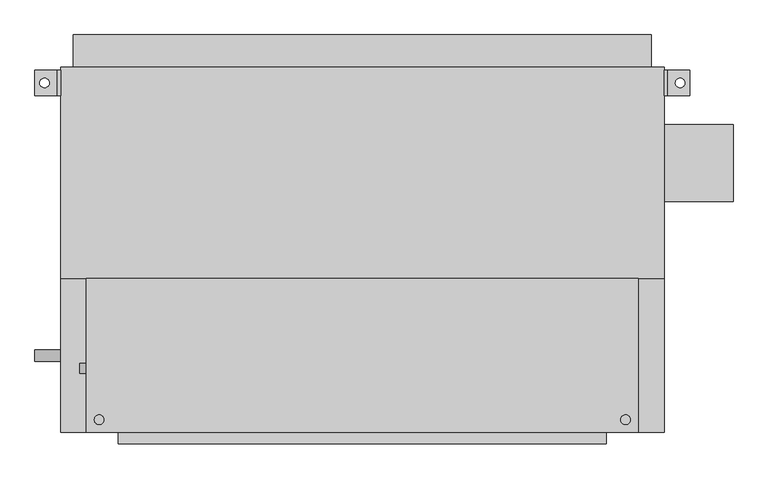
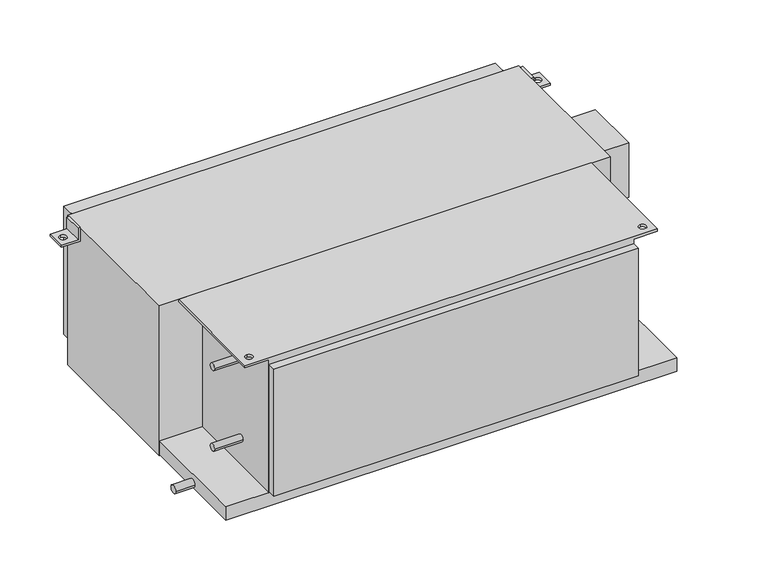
"""IFC4 building model written with IfcOpenShell, lengths in millimetres: proxy geometry, Concealed_High_Capacity_Horizontal_Fan_Coil_Unit_With_Plenum_-_42DCA_-_CARRIER_-_2-Pipe_Cool-EHeat_LH_2022 : Size 16 - 277v/60Hz/1Ph - 6 Row 12.0kW."""

from ifc_helpers import new_model, si_unit, point, frame, frame_2d, origin, place, context, project, spatial, polyline, circle_curve, trimmed, segment, composite_curve, outline, extrude, source, transform, mapped, element, save
from ifc_brep_helpers import plane_surface, revolved_surface, advanced_brep


def mechanical_equipment_f685141f(model_context):
    return source(origin(), model_context, "Body", "SolidModel", [
        advanced_brep(
        [(-444.5, 327.025, -38.1), (-495.3, 327.025, -38.1), (-495.3, 327.025, -31.75), (-450.85, 327.025, -31.75), (-450.85, 327.025, 0.0), (-444.5, 327.025, 0.0), (-444.5, 276.225, -38.1), (-444.5, 276.225, 0.0), (-450.85, 276.225, 0.0), (-450.85, 276.225, -31.75), (-495.3, 276.225, -31.75), (-495.3, 276.225, -38.1), (-476.25, 292.1, -38.1), (-476.25, 311.15, -38.1), (-476.25, 311.15, -31.75), (-476.25, 292.1, -31.75)],
        [
            (0, 1),
            (1, 2),
            (2, 3),
            (3, 4),
            (4, 5),
            (5, 0),
            (6, 7),
            (7, 8),
            (8, 9),
            (9, 10),
            (10, 11),
            (11, 6),
            (0, 6),
            (11, 1),
            (12, 13, circle_curve(frame((-476.25, 301.625, -38.1), z_axis=(0.0, 0.0, 1.0), x_axis=(0.0, -1.0, 0.0)), 9.525)),
            (13, 12, circle_curve(frame((-476.25, 301.625, -38.1), z_axis=(0.0, 0.0, 1.0), x_axis=(0.0, -1.0, 0.0)), 9.525)),
            (10, 2),
            (9, 3),
            (14, 15, circle_curve(frame((-476.25, 301.625, -31.75), z_axis=(0.0, 0.0, -1.0), x_axis=(0.0, -1.0, 0.0)), 9.525)),
            (15, 14, circle_curve(frame((-476.25, 301.625, -31.75), z_axis=(0.0, 0.0, -1.0), x_axis=(0.0, -1.0, 0.0)), 9.525)),
            (8, 4),
            (7, 5),
            (14, 13),
            (12, 15),
        ],
        [
            plane_surface(frame((-444.5, 327.025, -38.1), z_axis=(0.0, 1.0, 0.0), x_axis=(-1.0, 0.0, 0.0))),
            plane_surface(frame((-444.5, 276.225, -38.1), z_axis=(0.0, -1.0, 0.0), x_axis=(1.0, 0.0, 0.0))),
            plane_surface(frame((-444.5, 327.025, -38.1), z_axis=(0.0, 0.0, -1.0), x_axis=(0.0, -1.0, 0.0))),
            plane_surface(frame((-495.3, 327.025, -38.1), z_axis=(-1.0, 0.0, 0.0), x_axis=(0.0, -1.0, 0.0))),
            plane_surface(frame((-495.3, 327.025, -31.75), z_axis=(0.0, 0.0, 1.0), x_axis=(0.0, -1.0, 0.0))),
            plane_surface(frame((-450.85, 327.025, -31.75), z_axis=(-1.0, 0.0, 0.0), x_axis=(0.0, -1.0, 0.0))),
            plane_surface(frame((-450.85, 327.025, 0.0), z_axis=(0.0, 0.0, 1.0), x_axis=(0.0, -1.0, 0.0))),
            plane_surface(frame((-444.5, 327.025, 0.0), z_axis=(1.0, 0.0, 0.0), x_axis=(0.0, -1.0, 0.0))),
            revolved_surface(polyline([(-476.25, 292.1, -38.1), (-476.25, 292.1, -31.75)]), (-476.25, 301.625, -31.75), (0.0, 0.0, -1.0)),
        ],
        [
            (0, [[1, 2, 3, 4, 5, 6]]),
            (1, [[7, 8, 9, 10, 11, 12]]),
            (2, [[-1, 13, -12, 14], [15, 16]]),
            (3, [[-2, -14, -11, 17]]),
            (4, [[-3, -17, -10, 18], [19, 20]]),
            (5, [[-4, -18, -9, 21]]),
            (6, [[-5, -21, -8, 22]]),
            (7, [[-6, -22, -7, -13]]),
            (8, [[23, -15, 24, -19]]),
            (8, [[-23, -20, -24, -16]]),
        ],
    ),
        advanced_brep(
        [(749.3, 327.025, -38.1), (749.3, 327.025, 0.0), (755.65, 327.025, 0.0), (755.65, 327.025, -31.75), (800.1, 327.025, -31.75), (800.1, 327.025, -38.1), (749.3, 276.225, -38.1), (800.1, 276.225, -38.1), (800.1, 276.225, -31.75), (755.65, 276.225, -31.75), (755.65, 276.225, 0.0), (749.3, 276.225, 0.0), (781.05, 311.15, -31.75), (781.05, 292.1, -31.75), (781.05, 292.1, -38.1), (781.05, 311.15, -38.1)],
        [
            (0, 1),
            (1, 2),
            (2, 3),
            (3, 4),
            (4, 5),
            (5, 0),
            (6, 7),
            (7, 8),
            (8, 9),
            (9, 10),
            (10, 11),
            (11, 6),
            (0, 6),
            (11, 1),
            (10, 2),
            (9, 3),
            (8, 4),
            (12, 13, circle_curve(frame((781.05, 301.625, -31.75), z_axis=(0.0, 0.0, -1.0), x_axis=(0.0, -1.0, 0.0)), 9.525)),
            (13, 12, circle_curve(frame((781.05, 301.625, -31.75), z_axis=(0.0, 0.0, -1.0), x_axis=(0.0, -1.0, 0.0)), 9.525)),
            (7, 5),
            (14, 15, circle_curve(frame((781.05, 301.625, -38.1), z_axis=(0.0, 0.0, 1.0), x_axis=(0.0, -1.0, 0.0)), 9.525)),
            (15, 14, circle_curve(frame((781.05, 301.625, -38.1), z_axis=(0.0, 0.0, 1.0), x_axis=(0.0, -1.0, 0.0)), 9.525)),
            (12, 15),
            (14, 13),
        ],
        [
            plane_surface(frame((-444.5, 327.025, -38.1), z_axis=(0.0, 1.0, 0.0), x_axis=(-1.0, 0.0, 0.0))),
            plane_surface(frame((-444.5, 276.225, -38.1), z_axis=(0.0, -1.0, 0.0), x_axis=(1.0, 0.0, 0.0))),
            plane_surface(frame((749.3, 327.025, -38.1), z_axis=(-1.0, 0.0, 0.0), x_axis=(0.0, -1.0, 0.0))),
            plane_surface(frame((749.3, 327.025, 0.0), z_axis=(0.0, 0.0, 1.0), x_axis=(0.0, -1.0, 0.0))),
            plane_surface(frame((755.65, 327.025, 0.0), z_axis=(1.0, 0.0, 0.0), x_axis=(0.0, -1.0, 0.0))),
            plane_surface(frame((755.65, 327.025, -31.75), z_axis=(0.0, 0.0, 1.0), x_axis=(0.0, -1.0, 0.0))),
            plane_surface(frame((800.1, 327.025, -31.75), z_axis=(1.0, 0.0, 0.0), x_axis=(0.0, -1.0, 0.0))),
            plane_surface(frame((800.1, 327.025, -38.1), z_axis=(0.0, 0.0, -1.0), x_axis=(0.0, -1.0, 0.0))),
            revolved_surface(polyline([(781.05, 292.1, -38.1), (781.05, 292.1, -31.75)]), (781.05, 301.625, -31.75), (0.0, 0.0, -1.0)),
        ],
        [
            (0, [[1, 2, 3, 4, 5, 6]]),
            (1, [[7, 8, 9, 10, 11, 12]]),
            (2, [[-1, 13, -12, 14]]),
            (3, [[-2, -14, -11, 15]]),
            (4, [[-3, -15, -10, 16]]),
            (5, [[-4, -16, -9, 17], [18, 19]]),
            (6, [[-5, -17, -8, 20]]),
            (7, [[-6, -20, -7, -13], [21, 22]]),
            (8, [[23, -21, 24, -18]]),
            (8, [[-23, -19, -24, -22]]),
        ],
    ),
        advanced_brep(
        [(-393.7, -85.725, -6.35), (-330.2, -85.725, -6.35), (-330.2, -390.525, -6.35), (-393.7, -390.525, -6.35), (-368.3, -355.6, -6.35), (-368.3, -374.65, -6.35), (698.5, -85.725, -6.35), (698.5, -390.525, -6.35), (635.0, -390.525, -6.35), (635.0, -85.725, -6.35), (673.1, -355.6, -6.35), (673.1, -374.65, -6.35), (-393.7, -85.725, 0.0), (-393.7, -390.525, 0.0), (698.5, -390.525, 0.0), (698.5, -85.725, 0.0), (-368.3, -374.65, 0.0), (-368.3, -355.6, 0.0), (673.1, -374.65, 0.0), (673.1, -355.6, 0.0), (-330.2, -390.525, -377.825), (635.0, -390.525, -377.825), (635.0, -85.725, -377.825), (-330.2, -85.725, -377.825)],
        [
            (0, 1),
            (1, 2),
            (2, 3),
            (3, 0),
            (4, 5, circle_curve(frame((-368.3, -365.125, -6.35), z_axis=(0.0, 0.0, 1.0), x_axis=(0.0, 1.0, 0.0)), 9.525)),
            (5, 4, circle_curve(frame((-368.3, -365.125, -6.35), z_axis=(0.0, 0.0, 1.0), x_axis=(0.0, 1.0, 0.0)), 9.525)),
            (6, 7),
            (7, 8),
            (8, 9),
            (9, 6),
            (10, 11, circle_curve(frame((673.1, -365.125, -6.35), z_axis=(0.0, 0.0, 1.0), x_axis=(0.0, 1.0, 0.0)), 9.525)),
            (11, 10, circle_curve(frame((673.1, -365.125, -6.35), z_axis=(0.0, 0.0, 1.0), x_axis=(0.0, 1.0, 0.0)), 9.525)),
            (12, 13),
            (13, 14),
            (14, 15),
            (15, 12),
            (16, 17, circle_curve(frame((-368.3, -365.125, 0.0), z_axis=(0.0, 0.0, -1.0), x_axis=(0.0, 1.0, 0.0)), 9.525)),
            (17, 16, circle_curve(frame((-368.3, -365.125, 0.0), z_axis=(0.0, 0.0, -1.0), x_axis=(0.0, 1.0, 0.0)), 9.525)),
            (18, 19, circle_curve(frame((673.1, -365.125, 0.0), z_axis=(0.0, 0.0, -1.0), x_axis=(0.0, 1.0, 0.0)), 9.525)),
            (19, 18, circle_curve(frame((673.1, -365.125, 0.0), z_axis=(0.0, 0.0, -1.0), x_axis=(0.0, 1.0, 0.0)), 9.525)),
            (3, 13),
            (12, 0),
            (2, 20),
            (20, 21),
            (21, 8),
            (7, 14),
            (15, 6),
            (9, 22),
            (22, 23),
            (23, 1),
            (22, 21),
            (20, 23),
            (16, 5),
            (4, 17),
            (18, 11),
            (10, 19),
        ],
        [
            plane_surface(frame((-393.7, -85.725, -6.35), z_axis=(0.0, 0.0, -1.0), x_axis=(0.0, 1.0, 0.0))),
            plane_surface(frame((-393.7, -85.725, 0.0), z_axis=(0.0, 0.0, 1.0), x_axis=(0.0, -1.0, 0.0))),
            plane_surface(frame((-393.7, -85.725, 0.0), z_axis=(-1.0, 0.0, 0.0), x_axis=(0.0, 0.0, -1.0))),
            plane_surface(frame((-393.7, -390.525, 0.0), z_axis=(0.0, -1.0, 0.0), x_axis=(0.0, 0.0, -1.0))),
            plane_surface(frame((-330.2, -85.725, 0.0), z_axis=(0.0, 1.0, 0.0), x_axis=(0.0, 0.0, -1.0))),
            plane_surface(frame((698.5, -390.525, 0.0), z_axis=(1.0, 0.0, 0.0), x_axis=(0.0, 0.0, -1.0))),
            plane_surface(frame((-330.2, -85.725, -377.825), z_axis=(0.0, 0.0, -1.0), x_axis=(1.0, 0.0, 0.0))),
            plane_surface(frame((-330.2, -85.725, 0.0), z_axis=(-1.0, 0.0, 0.0), x_axis=(0.0, 0.0, -1.0))),
            plane_surface(frame((635.0, -390.525, 0.0), z_axis=(1.0, 0.0, 0.0), x_axis=(0.0, 0.0, -1.0))),
            revolved_surface(polyline([(-368.3, -355.6, -6.35), (-368.3, -355.6, 0.0)]), (-368.3, -365.125, 0.0), (0.0, 0.0, -1.0)),
            revolved_surface(polyline([(673.1, -355.6, -6.35), (673.1, -355.6, 0.0)]), (673.1, -365.125, 0.0), (0.0, 0.0, -1.0)),
        ],
        [
            (0, [[1, 2, 3, 4], [5, 6]]),
            (0, [[7, 8, 9, 10], [11, 12]]),
            (1, [[13, 14, 15, 16], [17, 18], [19, 20]]),
            (2, [[-4, 21, -13, 22]]),
            (3, [[-3, 23, 24, 25, -8, 26, -14, -21]]),
            (4, [[-1, -22, -16, 27, -10, 28, 29, 30]]),
            (5, [[-7, -27, -15, -26]]),
            (6, [[31, -24, 32, -29]]),
            (7, [[-32, -23, -2, -30]]),
            (8, [[-31, -28, -9, -25]]),
            (9, [[33, -5, 34, -17]]),
            (9, [[-33, -18, -34, -6]]),
            (10, [[35, -11, 36, -19]]),
            (10, [[-35, -20, -36, -12]]),
        ],
    ),
        extrude(outline(polyline([(-419.1, 396.875), (723.9, 396.875), (723.9, 333.375), (-419.1, 333.375), (-419.1, 396.875)])), frame((0.0, 0.0, -381.0), z_axis=(0.0, 0.0, 1.0), x_axis=(1.0, 0.0, 0.0)), (0.0, 0.0, 1.0), 358.775),
        extrude(outline(composite_curve([segment(trimmed(circle_curve(frame_2d((-263.525, -76.2)), 9.525), [point((-273.05, -76.2))], [point((-254.0, -76.2))], False, "CARTESIAN"), True, "CONTINUOUS"), segment(trimmed(circle_curve(frame_2d((-263.525, -76.2)), 9.525), [point((-254.0, -76.2))], [point((-273.05, -76.2))], False, "CARTESIAN"), True, "CONTINUOUS")], self_intersect=False)), frame((-406.4, 0.0, 0.0), z_axis=(1.0, 0.0, 0.0), x_axis=(0.0, 1.0, 0.0)), (0.0, 0.0, 1.0), 76.2),
        extrude(outline(composite_curve([segment(trimmed(circle_curve(frame_2d((-263.525, -301.625)), 9.525), [point((-273.05, -301.625))], [point((-254.0, -301.625))], False, "CARTESIAN"), True, "CONTINUOUS"), segment(trimmed(circle_curve(frame_2d((-263.525, -301.625)), 9.525), [point((-254.0, -301.625))], [point((-273.05, -301.625))], False, "CARTESIAN"), True, "CONTINUOUS")], self_intersect=False)), frame((-406.4, 0.0, 0.0), z_axis=(1.0, 0.0, 0.0), x_axis=(0.0, 1.0, 0.0)), (0.0, 0.0, 1.0), 76.2),
        extrude(outline(composite_curve([segment(trimmed(circle_curve(frame_2d((-238.125, -403.225)), 11.1125), [point((-249.2375, -403.225))], [point((-227.0125, -403.225))], False, "CARTESIAN"), True, "CONTINUOUS"), segment(trimmed(circle_curve(frame_2d((-238.125, -403.225)), 11.1125), [point((-227.0125, -403.225))], [point((-249.2375, -403.225))], False, "CARTESIAN"), True, "CONTINUOUS")], self_intersect=False)), frame((-495.3, 0.0, 0.0), z_axis=(1.0, 0.0, 0.0), x_axis=(0.0, 1.0, 0.0)), (0.0, 0.0, 1.0), 50.8),
        extrude(outline(polyline([(885.825, 219.075), (885.825, 66.675), (749.3, 66.675), (749.3, 219.075), (885.825, 219.075)])), frame((0.0, 0.0, -254.0), z_axis=(0.0, 0.0, 1.0), x_axis=(1.0, 0.0, 0.0)), (0.0, 0.0, 1.0), 152.4),
        extrude(outline(polyline([(635.0, -412.75), (-330.2, -412.75), (-330.2, -390.525), (635.0, -390.525), (635.0, -412.75)])), frame((0.0, 0.0, -374.65), z_axis=(0.0, 0.0, 1.0), x_axis=(1.0, 0.0, 0.0)), (0.0, 0.0, 1.0), 355.6),
        extrude(outline(polyline([(749.3, -85.725), (-444.5, -85.725), (-444.5, 333.375), (749.3, 333.375), (749.3, -85.725)])), frame((0.0, 0.0, -419.1), z_axis=(0.0, 0.0, 1.0), x_axis=(1.0, 0.0, 0.0)), (0.0, 0.0, 1.0), 419.1),
        extrude(outline(polyline([(749.3, -85.725), (749.3, -390.525), (-444.5, -390.525), (-444.5, -85.725), (749.3, -85.725)])), frame((0.0, 0.0, -415.925), z_axis=(0.0, 0.0, 1.0), x_axis=(1.0, 0.0, 0.0)), (0.0, 0.0, 1.0), 38.1),
    ])


if __name__ == "__main__":
    model = new_model("IFC4")
    model_context = context("Model", 3, world=origin())
    ifc_project = project(units=[si_unit("LENGTHUNIT", "METRE", prefix="MILLI")], contexts=[model_context])
    site = spatial("IfcSite", under=ifc_project)
    building = spatial("IfcBuilding", under=site)
    placement = place(None, origin())
    mechanical_equipment_shape = mechanical_equipment_f685141f(model_context)
    element("IfcBuildingElementProxy", 1, Name="Concealed_High_Capacity_Horizontal_Fan_Coil_Unit_With_Plenum_-_42DCA_-_CARRIER_-_2-Pipe_Cool-EHeat_LH_2022 : Size 16 - 277v/60Hz/1Ph - 6 Row 12.0kW", ObjectType="Concealed_High_Capacity_Horizontal_Fan_Coil_Unit_With_Plenum_-_42DCA_-_CARRIER_-_2-Pipe_Cool-EHeat_LH_2022 : Size 16 - 277v/60Hz/1Ph - 6 Row 12.0kW", at=placement, inside=building, context=model_context, shape_type="MappedRepresentation", body=[
        mapped(mechanical_equipment_shape, transform((0.0, 0.0, 0.0), x_axis=(1.0, 0.0, 0.0), y_axis=(0.0, 1.0, 0.0), z_axis=(0.0, 0.0, 1.0))),
    ])
    save(model, "model.ifc")
